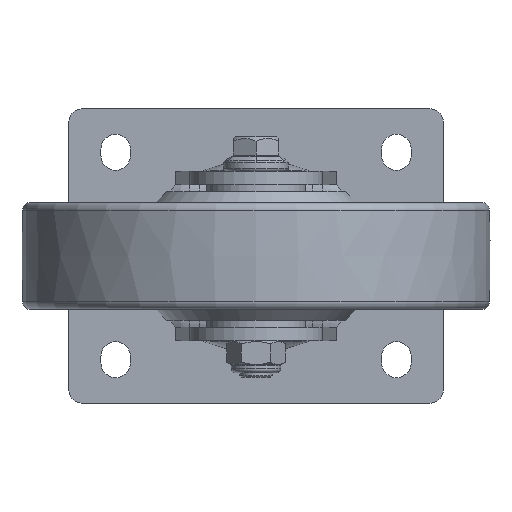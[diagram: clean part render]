
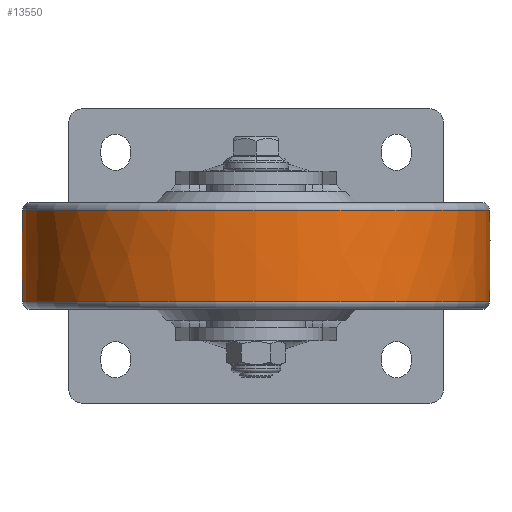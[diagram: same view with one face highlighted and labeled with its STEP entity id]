
A CAD part, front view. The second image highlights one B-rep face of the part: STEP entity #13550.
In plain terms, the highlighted free-form (B-spline) face has degree [2, 2] with [3, 9] control points.
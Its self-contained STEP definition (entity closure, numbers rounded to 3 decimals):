
#23=(
BOUNDED_SURFACE()
B_SPLINE_SURFACE(2,2,((#23006,#23007,#23008,#23009,#23010,#23011,#23012,
#23013,#23014),(#23015,#23016,#23017,#23018,#23019,#23020,#23021,#23022,
#23023),(#23024,#23025,#23026,#23027,#23028,#23029,#23030,#23031,#23032)),
 .UNSPECIFIED.,.F.,.T.,.F.)
B_SPLINE_SURFACE_WITH_KNOTS((3,3),(3,2,2,2,3),(-0.024,0.024),
(-3.142,-1.571,0.,1.571,3.142),
 .UNSPECIFIED.)
GEOMETRIC_REPRESENTATION_ITEM()
RATIONAL_B_SPLINE_SURFACE(((1.,0.707,1.,0.707,1.,
0.707,1.,0.707,1.),(1.,0.707,
1.,0.707,1.,0.707,
1.,0.707,1.),(1.,0.707,
1.,0.707,1.,0.707,1.,0.707,1.)))
REPRESENTATION_ITEM('')
SURFACE()
);
#1494=FACE_OUTER_BOUND('',#2248,.T.);
#2248=EDGE_LOOP('',(#12779,#12780,#12781,#12782,#12783,#12784));
#5742=CIRCLE('',#14419,87.292);
#5743=CIRCLE('',#14420,87.292);
#5745=CIRCLE('',#14422,700.);
#5746=CIRCLE('',#14423,87.292);
#5747=CIRCLE('',#14424,87.292);
#7022=VERTEX_POINT('',#23001);
#7023=VERTEX_POINT('',#23002);
#7024=VERTEX_POINT('',#23033);
#7025=VERTEX_POINT('',#23035);
#8943=EDGE_CURVE('',#7022,#7023,#5742,.T.);
#8944=EDGE_CURVE('',#7023,#7022,#5743,.T.);
#8946=EDGE_CURVE('',#7023,#7024,#5745,.T.);
#8947=EDGE_CURVE('',#7025,#7024,#5746,.T.);
#8948=EDGE_CURVE('',#7024,#7025,#5747,.T.);
#12779=ORIENTED_EDGE('',*,*,#8943,.T.);
#12780=ORIENTED_EDGE('',*,*,#8946,.T.);
#12781=ORIENTED_EDGE('',*,*,#8947,.F.);
#12782=ORIENTED_EDGE('',*,*,#8948,.F.);
#12783=ORIENTED_EDGE('',*,*,#8946,.F.);
#12784=ORIENTED_EDGE('',*,*,#8944,.T.);
#13550=ADVANCED_FACE('',(#1494),#23,.F.);
#14419=AXIS2_PLACEMENT_3D('',#23003,#17779,#17780);
#14420=AXIS2_PLACEMENT_3D('',#23004,#17781,#17782);
#14422=AXIS2_PLACEMENT_3D('',#23034,#17785,#17786);
#14423=AXIS2_PLACEMENT_3D('',#23036,#17787,#17788);
#14424=AXIS2_PLACEMENT_3D('',#23037,#17789,#17790);
#17779=DIRECTION('center_axis',(0.,0.,
-1.));
#17780=DIRECTION('ref_axis',(-1.,0.,0.));
#17781=DIRECTION('center_axis',(0.,0.,
-1.));
#17782=DIRECTION('ref_axis',(-1.,0.,0.));
#17785=DIRECTION('center_axis',(0.,1.,0.));
#17786=DIRECTION('ref_axis',(1.,0.,0.));
#17787=DIRECTION('center_axis',(0.,0.,
-1.));
#17788=DIRECTION('ref_axis',(-1.,0.,0.));
#17789=DIRECTION('center_axis',(0.,0.,
-1.));
#17790=DIRECTION('ref_axis',(-1.,0.,0.));
#23001=CARTESIAN_POINT('',(-87.292,-122.5,17.073));
#23002=CARTESIAN_POINT('',(87.292,-122.5,17.073));
#23003=CARTESIAN_POINT('Origin',(0.,-122.5,
17.073));
#23004=CARTESIAN_POINT('Origin',(0.,-122.5,
17.073));
#23006=CARTESIAN_POINT('Ctrl Pts',(87.292,-122.5,17.073));
#23007=CARTESIAN_POINT('Ctrl Pts',(87.292,-209.792,17.073));
#23008=CARTESIAN_POINT('Ctrl Pts',(0.,-209.792,
17.073));
#23009=CARTESIAN_POINT('Ctrl Pts',(-87.292,-209.792,17.073));
#23010=CARTESIAN_POINT('Ctrl Pts',(-87.292,-122.5,
17.073));
#23011=CARTESIAN_POINT('Ctrl Pts',(-87.292,-35.208,
17.073));
#23012=CARTESIAN_POINT('Ctrl Pts',(0.,-35.208,
17.073));
#23013=CARTESIAN_POINT('Ctrl Pts',(87.292,-35.208,17.073));
#23014=CARTESIAN_POINT('Ctrl Pts',(87.292,-122.5,17.073));
#23015=CARTESIAN_POINT('Ctrl Pts',(87.708,-122.5,0.));
#23016=CARTESIAN_POINT('Ctrl Pts',(87.708,-210.208,0.));
#23017=CARTESIAN_POINT('Ctrl Pts',(0.,-210.208,
0.));
#23018=CARTESIAN_POINT('Ctrl Pts',(-87.708,-210.208,
0.));
#23019=CARTESIAN_POINT('Ctrl Pts',(-87.708,-122.5,
0.));
#23020=CARTESIAN_POINT('Ctrl Pts',(-87.708,-34.792,
0.));
#23021=CARTESIAN_POINT('Ctrl Pts',(0.,-34.792,
0.));
#23022=CARTESIAN_POINT('Ctrl Pts',(87.708,-34.792,0.));
#23023=CARTESIAN_POINT('Ctrl Pts',(87.708,-122.5,0.));
#23024=CARTESIAN_POINT('Ctrl Pts',(87.292,-122.5,-17.073));
#23025=CARTESIAN_POINT('Ctrl Pts',(87.292,-209.792,-17.073));
#23026=CARTESIAN_POINT('Ctrl Pts',(0.,-209.792,
-17.073));
#23027=CARTESIAN_POINT('Ctrl Pts',(-87.292,-209.792,
-17.073));
#23028=CARTESIAN_POINT('Ctrl Pts',(-87.292,-122.5,
-17.073));
#23029=CARTESIAN_POINT('Ctrl Pts',(-87.292,-35.208,
-17.073));
#23030=CARTESIAN_POINT('Ctrl Pts',(0.,-35.208,
-17.073));
#23031=CARTESIAN_POINT('Ctrl Pts',(87.292,-35.208,-17.073));
#23032=CARTESIAN_POINT('Ctrl Pts',(87.292,-122.5,-17.073));
#23033=CARTESIAN_POINT('',(87.292,-122.5,-17.073));
#23034=CARTESIAN_POINT('Origin',(-612.5,-122.5,0.));
#23035=CARTESIAN_POINT('',(-87.292,-122.5,-17.073));
#23036=CARTESIAN_POINT('Origin',(0.,-122.5,
-17.073));
#23037=CARTESIAN_POINT('Origin',(0.,-122.5,
-17.073));
